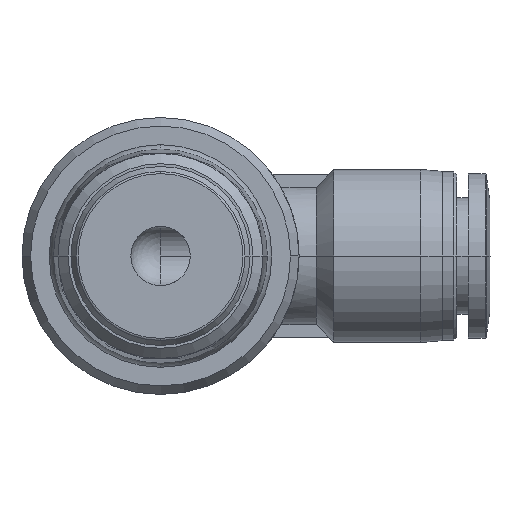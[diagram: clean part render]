
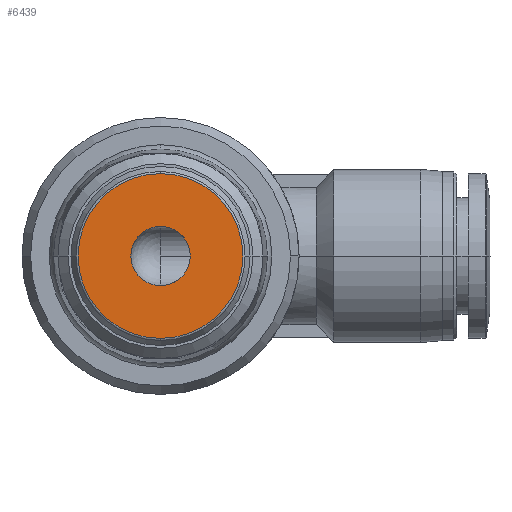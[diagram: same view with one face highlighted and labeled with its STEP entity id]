
A CAD part, front view. The second image highlights one B-rep face of the part: STEP entity #6439.
In plain terms, the highlighted planar face has unit normal (0, -1, 0).
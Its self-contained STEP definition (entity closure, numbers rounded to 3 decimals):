
#571 = DIRECTION ( 'NONE',  ( 0., 0., -1. ) ) ;
#1186 = PLANE ( 'NONE',  #3143 ) ;
#2317 = CARTESIAN_POINT ( 'NONE',  ( 0., 0., 0. ) ) ;
#2449 = DIRECTION ( 'NONE',  ( -1., 0., 0. ) ) ;
#2582 = AXIS2_PLACEMENT_3D ( 'NONE', #16879, #3801, #4753 ) ;
#2733 = CARTESIAN_POINT ( 'NONE',  ( -4.164, 0., 0. ) ) ;
#2916 = EDGE_LOOP ( 'NONE', ( #4014, #12565 ) ) ;
#2995 = DIRECTION ( 'NONE',  ( 0., -1., 0. ) ) ;
#3143 = AXIS2_PLACEMENT_3D ( 'NONE', #2733, #2995, #571 ) ;
#3801 = DIRECTION ( 'NONE',  ( 0., 1., 0. ) ) ;
#4014 = ORIENTED_EDGE ( 'NONE', *, *, #13577, .F. ) ;
#4246 = CIRCLE ( 'NONE', #2582, 8.328 ) ;
#4656 = DIRECTION ( 'NONE',  ( 0., 1., 0. ) ) ;
#4753 = DIRECTION ( 'NONE',  ( -1., 0., 0. ) ) ;
#5799 = EDGE_CURVE ( 'NONE', #11605, #7582, #4246, .T. ) ;
#6439 = ADVANCED_FACE ( 'NONE', ( #14604, #14262 ), #1186, .T. ) ;
#6529 = EDGE_CURVE ( 'NONE', #15326, #8969, #10560, .T. ) ;
#6944 = DIRECTION ( 'NONE',  ( -1., 0., 0. ) ) ;
#7582 = VERTEX_POINT ( 'NONE', #12981 ) ;
#8231 = CARTESIAN_POINT ( 'NONE',  ( 0., 0., 0. ) ) ;
#8662 = ORIENTED_EDGE ( 'NONE', *, *, #6529, .T. ) ;
#8682 = CIRCLE ( 'NONE', #15282, 3. ) ;
#8892 = DIRECTION ( 'NONE',  ( 0., 1., 0. ) ) ;
#8969 = VERTEX_POINT ( 'NONE', #12274 ) ;
#10233 = EDGE_LOOP ( 'NONE', ( #10251, #8662 ) ) ;
#10251 = ORIENTED_EDGE ( 'NONE', *, *, #14340, .T. ) ;
#10560 = CIRCLE ( 'NONE', #12756, 3. ) ;
#11514 = DIRECTION ( 'NONE',  ( -1., 0., 0. ) ) ;
#11605 = VERTEX_POINT ( 'NONE', #15031 ) ;
#12274 = CARTESIAN_POINT ( 'NONE',  ( -3., 0., 0. ) ) ;
#12565 = ORIENTED_EDGE ( 'NONE', *, *, #5799, .F. ) ;
#12756 = AXIS2_PLACEMENT_3D ( 'NONE', #8231, #13483, #6944 ) ;
#12981 = CARTESIAN_POINT ( 'NONE',  ( 0., 0., 8.328 ) ) ;
#13341 = CIRCLE ( 'NONE', #16086, 8.328 ) ;
#13483 = DIRECTION ( 'NONE',  ( 0., 1., 0. ) ) ;
#13577 = EDGE_CURVE ( 'NONE', #7582, #11605, #13341, .T. ) ;
#13894 = CARTESIAN_POINT ( 'NONE',  ( 0., 0., 0. ) ) ;
#14262 = FACE_BOUND ( 'NONE', #10233, .T. ) ;
#14340 = EDGE_CURVE ( 'NONE', #8969, #15326, #8682, .T. ) ;
#14604 = FACE_OUTER_BOUND ( 'NONE', #2916, .T. ) ;
#15031 = CARTESIAN_POINT ( 'NONE',  ( 0., 0., -8.328 ) ) ;
#15282 = AXIS2_PLACEMENT_3D ( 'NONE', #13894, #8892, #2449 ) ;
#15326 = VERTEX_POINT ( 'NONE', #16183 ) ;
#16086 = AXIS2_PLACEMENT_3D ( 'NONE', #2317, #4656, #11514 ) ;
#16183 = CARTESIAN_POINT ( 'NONE',  ( 3., 0., 0. ) ) ;
#16879 = CARTESIAN_POINT ( 'NONE',  ( 0., 0., 0. ) ) ;
